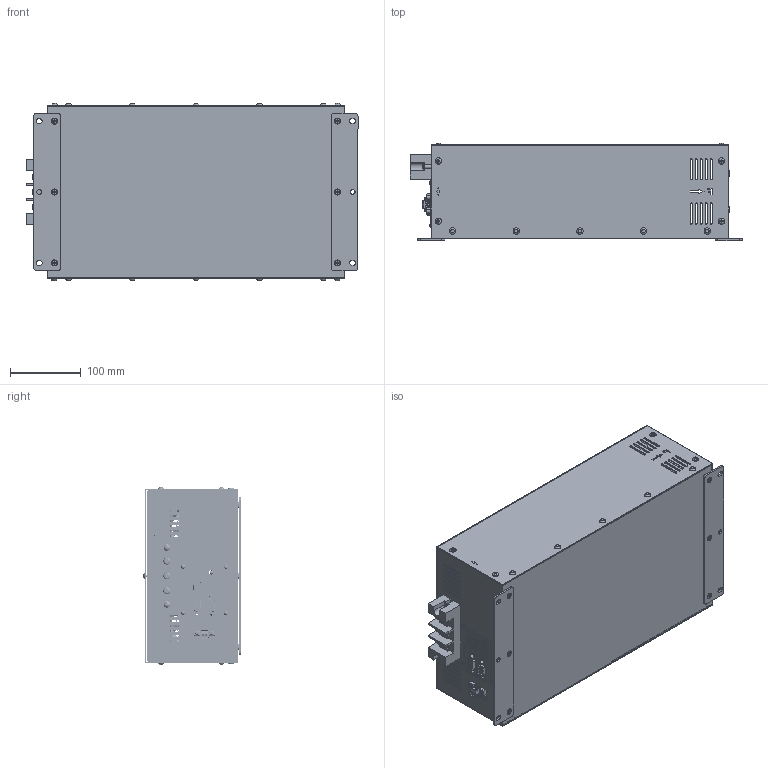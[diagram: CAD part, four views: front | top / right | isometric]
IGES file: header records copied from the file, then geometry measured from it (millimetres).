
Global section: file name: VX3COM; native system: Autodesk Inventor 2021; preprocessor: unknown; author: eunsol jang; date: 20230227.113423; units: inch
Bounding box: 468 x 137.59 x 250.09 mm (x, y, z)
Volume: 711723.7 mm3; surface area: 905203.3 mm2
Topology: 13 solids, 13 shells, 4505 faces, 13451 edges, 9326 vertices
Faces by surface type: bspline 4505
